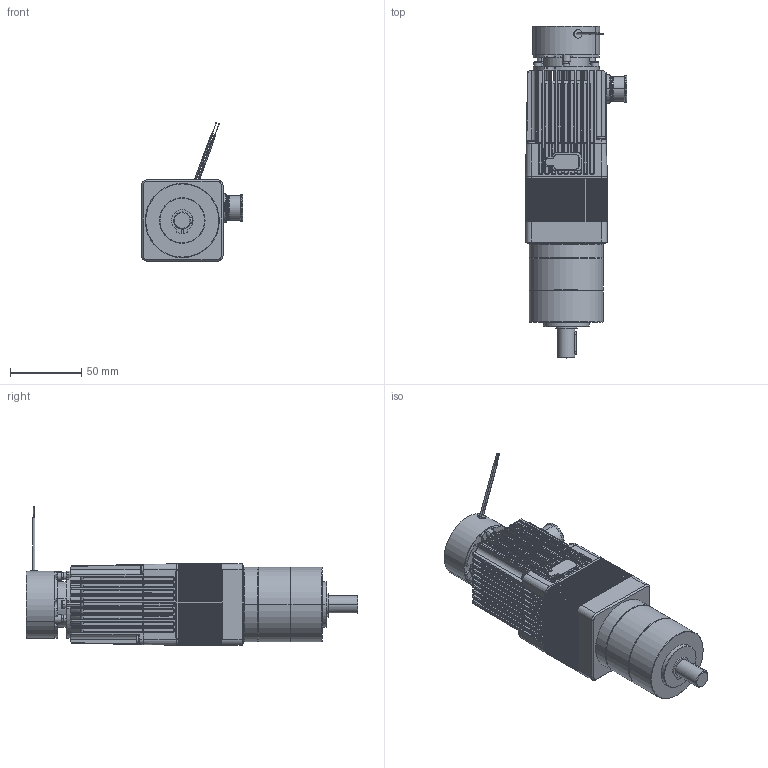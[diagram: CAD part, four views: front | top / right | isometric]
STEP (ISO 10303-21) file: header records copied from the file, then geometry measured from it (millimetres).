
FILE_DESCRIPTION((''),'2;1');
FILE_NAME('ENV_SIMP_STEP_TEMP','2012-10-24T',('VALJBL1'),('CROUZET-AUTOMATISMES'),'PRO/ENGINEER BY PARAMETRIC TECHNOLOGY CORPORATION, 2012090','PRO/ENGINEER BY PARAMETRIC TECHNOLOGY CORPORATION, 2012090','');
FILE_SCHEMA(('CONFIG_CONTROL_DESIGN'));
Products named in the file (1): ENV_SIMP_STEP_TEMP
Bounding box: 71.05 x 232.85 x 97.22 mm (x, y, z)
Surface area: 100515.3 mm2 (no closed solid volume)
Topology: 0 solids, 177 shells, 2665 faces, 8225 edges, 5585 vertices
Faces by surface type: cylinder 1295, plane 1129, sphere 102, torus 55, bspline 54, cone 30
Entity records: 98237 total; most frequent: CARTESIAN_POINT 29417, DIRECTION 13951, ORIENTED_EDGE 12770, EDGE_CURVE 8225, VERTEX_POINT 5585, VECTOR 4689, LINE 4689, AXIS2_PLACEMENT_3D 4631
